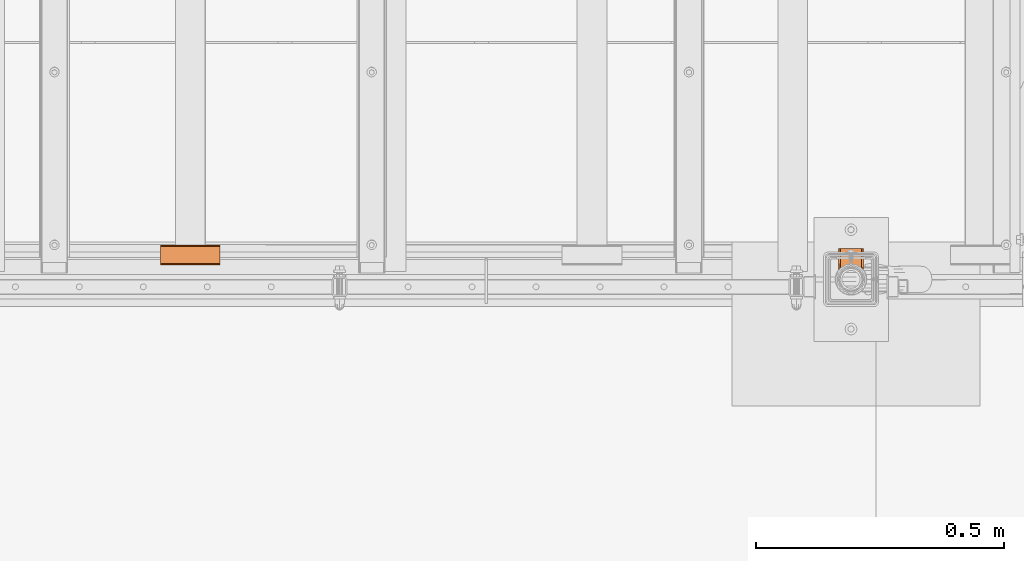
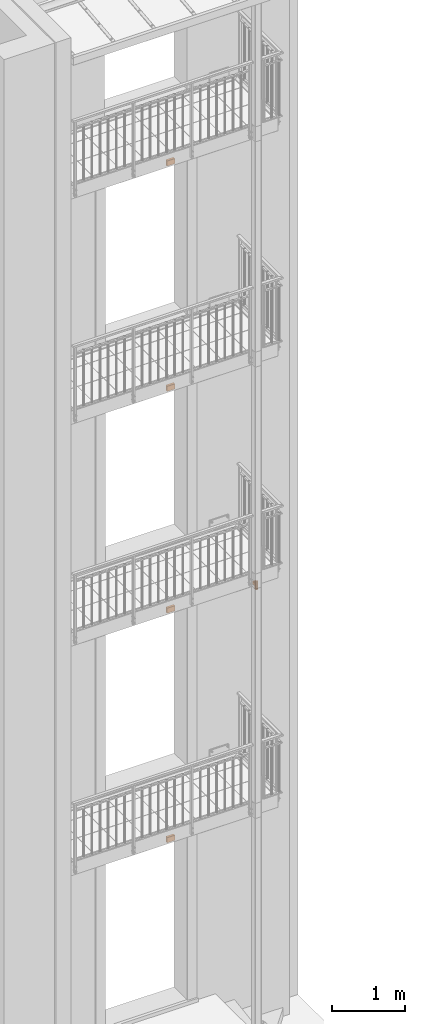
# One storey, part 82 of 162: 5 proxies.
"""IFC2X3 building model written with IfcOpenShell, lengths in millimetres."""

from ifc_helpers import new_model, entity, si_unit, converted_unit, origin_with_axes, place, context, project, spatial, faceted_brep, material, element, save


model = new_model("IFC2X3")

# Units and contexts
model_context = context("Model", 3, precision=1e-09, world=origin_with_axes())
ifc_project = project(units=[si_unit("LENGTHUNIT", "METRE", prefix="MILLI"), si_unit("AREAUNIT", "SQUARE_METRE"), si_unit("VOLUMEUNIT", "CUBIC_METRE"), converted_unit("PLANEANGLEUNIT", "DEGREE", entity("IfcPlaneAngleMeasure", 0.01745329), si_unit("PLANEANGLEUNIT", "RADIAN"), dimensions=[0, 0, 0, 0, 0, 0, 0])], contexts=[model_context])

# Site, building, storey
site_placement = place(None, origin_with_axes())
site = spatial("IfcSite", under=ifc_project, at=site_placement, Name="Hermannstra?e 1a, 60318 Frankfurt", CompositionType="ELEMENT")
building_placement = place(site_placement, origin_with_axes())
building = spatial("IfcBuilding", under=site, at=building_placement, Name="Struktur 1", CompositionType="ELEMENT")
storey_placement = place(building_placement, origin_with_axes())
storey = spatial("IfcBuildingStorey", under=building, at=storey_placement, Name="Default Storey", CompositionType="ELEMENT", Elevation=0.0)

# Proxies
ifc_material_1 = material(Name="S235JR")
proxy_1_placement = place(None, origin_with_axes())
element("IfcBuildingElementProxy", 1, at=proxy_1_placement, inside=storey, material=ifc_material_1, ObjectType="-", context=model_context, shape_type="Brep", body=[
    faceted_brep([(5452.350576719, 1542.609373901, 7592.572710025), (5452.327698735, 1542.609373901, 7592.382537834), (5452.30936482, 1592.609373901, 7592.0), (5450.201414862, 1542.609373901, 7552.833478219), (5452.350576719, 1542.609373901, 7551.048165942), (5452.350576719, 1542.609373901, 7557.427289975), (5452.327698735, 1542.609373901, 7557.617462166), (5452.313950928, 1542.609373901, 7557.808511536), (5452.30936482, 1542.609373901, 7558.0), (5452.30936482, 1542.609373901, 7592.0), (5452.313950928, 1542.609373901, 7592.191488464), (5452.350576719, 1542.609373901, 7598.951834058), (5450.201414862, 1542.609373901, 7597.166521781), (5448.797254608, 1542.609373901, 7594.751036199), (5448.30936482, 1542.609373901, 7592.0), (5448.30936482, 1542.609373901, 7558.0), (5448.797254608, 1542.609373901, 7555.248963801), (5452.563771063, 1542.974289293, 7593.403750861), (5452.845263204, 1592.609373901, 7594.0), (5452.911785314, 1543.540321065, 7594.111024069), (5449.381161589, 1592.609373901, 7596.0), (5448.30936482, 1592.609373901, 7592.0), (5452.30936482, 1592.609373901, 7598.92820323), (5456.30936482, 1592.609373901, 7600.0), (5490.30936482, 1592.609373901, 7600.0), (5494.30936482, 1592.609373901, 7598.92820323), (5497.23756805, 1592.609373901, 7596.0), (5498.30936482, 1592.609373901, 7592.0), (5498.30936482, 1592.609373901, 7558.0), (5497.23756805, 1592.609373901, 7554.0), (5494.30936482, 1592.609373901, 7551.07179677), (5490.30936482, 1592.609373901, 7550.0), (5456.30936482, 1592.609373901, 7550.0), (5452.30936482, 1592.609373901, 7551.07179677), (5449.381161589, 1592.609373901, 7554.0), (5448.30936482, 1592.609373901, 7558.0), (5454.30936482, 1592.609373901, 7595.464101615), (5452.30936482, 1592.609373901, 7558.0), (5452.845263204, 1592.609373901, 7556.0), (5454.30936482, 1592.609373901, 7554.535898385), (5456.30936482, 1592.609373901, 7554.0), (5490.30936482, 1592.609373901, 7554.0), (5492.30936482, 1592.609373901, 7554.535898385), (5493.773466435, 1592.609373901, 7556.0), (5494.30936482, 1592.609373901, 7558.0), (5494.30936482, 1592.609373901, 7592.0), (5493.773466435, 1592.609373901, 7594.0), (5492.30936482, 1592.609373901, 7595.464101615), (5490.30936482, 1592.609373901, 7596.0), (5456.30936482, 1592.609373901, 7596.0), (5453.822811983, 1544.876293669, 7595.133217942), (5456.30936482, 1547.7636969, 7596.0), (5456.30936482, 1547.7636969, 7600.0), (5464.117609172, 1552.942811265, 7596.0), (5464.117609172, 1552.942811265, 7600.0), (5452.573414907, 1542.990448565, 7556.570836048), (5490.30936482, 1547.763696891, 7596.0), (5482.50112047, 1552.942811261, 7596.0), (5473.309364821, 1554.760373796, 7596.0), (5473.309364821, 1554.760373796, 7600.0), (5452.924848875, 1543.560904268, 7555.868118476), (5482.50112047, 1552.942811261, 7600.0), (5490.30936482, 1547.763696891, 7600.0), (5453.844527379, 1544.905878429, 7554.84970281), (5456.30936482, 1547.7636969, 7550.0), (5456.30936482, 1547.7636969, 7554.0), (5464.117609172, 1552.942811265, 7550.0), (5464.117609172, 1552.942811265, 7554.0), (5490.30936482, 1547.763696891, 7550.0), (5482.50112047, 1552.942811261, 7550.0), (5473.309364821, 1554.760373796, 7550.0), (5473.309364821, 1554.760373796, 7554.0), (5493.706944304, 1543.540321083, 7594.111024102), (5494.054958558, 1542.974289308, 7593.403750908), (5494.268152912, 1542.609373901, 7598.951834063), (5494.268152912, 1542.609373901, 7592.572710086), (5492.795917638, 1544.876293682, 7595.133217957), (5482.50112047, 1552.942811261, 7554.0), (5490.30936482, 1547.763696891, 7554.0), (5496.417314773, 1542.609373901, 7552.833478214), (5497.82147503, 1542.609373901, 7555.248963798), (5498.30936482, 1542.609373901, 7558.0), (5498.30936482, 1542.609373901, 7592.0), (5497.82147503, 1542.609373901, 7594.751036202), (5496.417314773, 1542.609373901, 7597.166521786), (5494.2910309, 1542.609373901, 7592.382537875), (5494.304778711, 1542.609373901, 7592.191488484), (5494.30936482, 1542.609373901, 7592.0), (5494.30936482, 1542.609373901, 7558.0), (5494.304778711, 1542.609373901, 7557.808511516), (5494.2910309, 1542.609373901, 7557.617462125), (5494.268152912, 1542.609373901, 7557.427289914), (5494.268152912, 1542.609373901, 7551.048165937), (5492.774202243, 1544.90587844, 7554.849702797), (5493.693880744, 1543.560904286, 7555.868118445), (5494.045314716, 1542.990448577, 7556.570836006)], [[[0, 1, 2]], [[3, 4, 5, 6, 7, 8, 9, 10, 1, 0, 11, 12, 13, 14, 15, 16]], [[17, 0, 2]], [[17, 11, 0]], [[10, 2, 1]], [[17, 2, 18]], [[19, 17, 18]], [[17, 19, 11]], [[10, 9, 2]], [[20, 21, 13]], [[22, 20, 12]], [[20, 22, 23, 24, 25, 26, 27, 28, 29, 30, 31, 32, 33, 34, 35, 21], [36, 18, 2, 37, 38, 39, 40, 41, 42, 43, 44, 45, 46, 47, 48, 49]], [[50, 19, 18]], [[19, 50, 11]], [[9, 8, 37, 2]], [[20, 13, 12]], [[21, 14, 13]], [[15, 14, 21, 35]], [[22, 12, 11]], [[50, 18, 36]], [[50, 51, 52]], [[50, 52, 11]], [[51, 53, 54, 52]], [[7, 6, 37]], [[7, 37, 8]], [[5, 37, 6]], [[16, 15, 35]], [[5, 4, 55]], [[23, 22, 11]], [[51, 50, 36]], [[49, 48, 56, 57, 58, 53, 51]], [[23, 11, 52]], [[53, 58, 59, 54]], [[5, 55, 37]], [[16, 35, 34]], [[60, 55, 4]], [[51, 36, 49]], [[59, 61, 62, 24, 23, 52, 54]], [[3, 16, 34]], [[55, 38, 37]], [[55, 60, 38]], [[63, 60, 4]], [[58, 57, 61, 59]], [[4, 3, 33]], [[3, 34, 33]], [[60, 63, 38]], [[63, 4, 64]], [[57, 56, 62, 61]], [[64, 4, 33]], [[63, 39, 38]], [[65, 63, 64]], [[64, 66, 67, 65]], [[56, 48, 47]], [[32, 31, 68, 69, 70, 66, 64]], [[64, 33, 32]], [[63, 65, 39]], [[66, 70, 71, 67]], [[72, 73, 74]], [[75, 74, 73]], [[72, 76, 46]], [[76, 56, 47]], [[56, 76, 62]], [[76, 72, 74]], [[65, 40, 39]], [[71, 77, 78, 41, 40, 65, 67]], [[73, 72, 46]], [[75, 73, 45]], [[79, 80, 81, 82, 83, 84, 74, 75, 85, 86, 87, 88, 89, 90, 91, 92]], [[76, 47, 46]], [[62, 25, 24]], [[76, 74, 62]], [[77, 71, 70, 69]], [[78, 77, 69, 68]], [[73, 46, 45]], [[75, 45, 85]], [[62, 74, 25]], [[93, 78, 68]], [[94, 93, 92]], [[95, 94, 92]], [[91, 90, 44]], [[95, 92, 91]], [[86, 85, 45]], [[74, 84, 25]], [[89, 88, 44]], [[89, 44, 90]], [[93, 68, 92]], [[78, 42, 41]], [[78, 93, 42]], [[93, 94, 43]], [[94, 95, 43]], [[95, 91, 44]], [[86, 45, 87]], [[88, 87, 45, 44]], [[83, 27, 26]], [[84, 26, 25]], [[31, 92, 68]], [[93, 43, 42]], [[82, 81, 28, 27]], [[95, 44, 43]], [[83, 82, 27]], [[84, 83, 26]], [[31, 30, 92]], [[30, 79, 92]], [[28, 81, 80]], [[30, 29, 79]], [[29, 28, 80]], [[29, 80, 79]]]),
    faceted_brep([(5452.458054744, 1538.082250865, 7593.084774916), (5452.349523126, 1537.772303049, 7592.573274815), (5452.436342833, 1542.755917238, 7593.004005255), (5452.350714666, 1537.775786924, 7557.418484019), (5452.458814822, 1538.084468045, 7556.912278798), (5452.425069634, 1542.736564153, 7557.039862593), (5452.30836482, 1542.533320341, 7557.999), (5452.30836482, 1542.533320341, 7592.001), (5450.997674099, 1539.851178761, 7498.0), (5450.997674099, 1539.851178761, 7624.0), (5452.749261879, 1543.278325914, 7593.826042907), (5452.775277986, 1538.914394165, 7593.876444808), (5453.074332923, 1539.618590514, 7624.0), (5452.733221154, 1543.252318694, 7556.205072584), (5452.784214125, 1538.93644692, 7556.106836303), (5453.074332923, 1539.618590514, 7498.0), (5452.30836482, 1537.650716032, 7557.999), (5452.30836482, 1537.650716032, 7592.001), (5453.690911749, 1544.692624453, 7595.025687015), (5453.674163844, 1540.860237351, 7595.011116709), (5453.674712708, 1540.861329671, 7554.988368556), (5453.659785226, 1544.649160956, 7555.001497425), (5449.15936481, 1530.60937387, 7498.0), (5449.15936481, 1530.60937387, 7624.0), (5451.15936481, 1530.60937387, 7624.0), (5456.30836482, 1544.807560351, 7596.001), (5456.232736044, 1513.532745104, 7498.0), (5450.997674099, 1521.367568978, 7498.0), (5456.232736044, 1547.686002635, 7498.0), (5464.067559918, 1552.92106458, 7498.0), (5473.30936481, 1554.75937387, 7498.0), (5482.551169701, 1552.92106458, 7498.0), (5490.385993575, 1547.686002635, 7498.0), (5495.62105552, 1539.851178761, 7498.0), (5497.45936481, 1530.60937387, 7498.0), (5495.62105552, 1521.367568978, 7498.0), (5490.385993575, 1513.532745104, 7498.0), (5482.551169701, 1508.29768316, 7498.0), (5473.30936481, 1506.45937387, 7498.0), (5464.067559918, 1508.29768316, 7498.0), (5451.15936481, 1530.60937387, 7498.0), (5453.074332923, 1521.600157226, 7498.0), (5458.488121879, 1514.148715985, 7498.0), (5466.464638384, 1509.543472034, 7498.0), (5475.624670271, 1508.580713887, 7498.0), (5484.38436481, 1511.426911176, 7498.0), (5491.229091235, 1517.589930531, 7498.0), (5494.975334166, 1526.004129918, 7498.0), (5494.975334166, 1535.214617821, 7498.0), (5491.229091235, 1543.628817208, 7498.0), (5484.38436481, 1549.791836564, 7498.0), (5475.624670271, 1552.638033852, 7498.0), (5466.464638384, 1551.675275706, 7498.0), (5458.488121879, 1547.070031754, 7498.0), (5456.30836482, 1544.807560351, 7553.999), (5456.232736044, 1547.686002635, 7624.0), (5450.997674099, 1521.367568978, 7624.0), (5456.232736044, 1513.532745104, 7624.0), (5464.067559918, 1508.29768316, 7624.0), (5473.30936481, 1506.45937387, 7624.0), (5482.551169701, 1508.29768316, 7624.0), (5490.385993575, 1513.532745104, 7624.0), (5495.62105552, 1521.367568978, 7624.0), (5497.45936481, 1530.60937387, 7624.0), (5495.62105552, 1539.851178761, 7624.0), (5490.385993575, 1547.686002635, 7624.0), (5482.551169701, 1552.92106458, 7624.0), (5473.30936481, 1554.75937387, 7624.0), (5464.067559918, 1552.92106458, 7624.0), (5458.488121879, 1547.070031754, 7624.0), (5466.464638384, 1551.675275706, 7624.0), (5475.624670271, 1552.638033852, 7624.0), (5484.38436481, 1549.791836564, 7624.0), (5491.229091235, 1543.628817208, 7624.0), (5494.975334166, 1535.214617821, 7624.0), (5494.975334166, 1526.004129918, 7624.0), (5491.229091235, 1517.589930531, 7624.0), (5484.38436481, 1511.426911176, 7624.0), (5475.624670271, 1508.580713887, 7624.0), (5466.464638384, 1509.543472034, 7624.0), (5458.488121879, 1514.148715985, 7624.0), (5453.074332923, 1521.600157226, 7624.0), (5456.30836482, 1547.761297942, 7596.001), (5456.30836482, 1547.761297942, 7553.999), (5482.501849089, 1552.94143004, 7596.001), (5490.31036482, 1547.76129792, 7596.001), (5490.31036482, 1544.807560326, 7596.001), (5484.411161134, 1549.776340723, 7596.001), (5477.16583286, 1552.421071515, 7596.001), (5469.452896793, 1552.421071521, 7596.001), (5462.207568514, 1549.77634074, 7596.001), (5464.116880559, 1552.941430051, 7596.001), (5473.309364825, 1554.75937387, 7596.001), (5477.16583286, 1552.421071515, 7553.999), (5484.411161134, 1549.776340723, 7553.999), (5490.31036482, 1544.807560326, 7553.999), (5490.31036482, 1547.76129792, 7553.999), (5482.501849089, 1552.94143004, 7553.999), (5473.309364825, 1554.75937387, 7553.999), (5464.116880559, 1552.941430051, 7553.999), (5462.207568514, 1549.77634074, 7553.999), (5469.452896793, 1552.421071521, 7553.999), (5492.958944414, 1544.649160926, 7594.998502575), (5492.944565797, 1540.860237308, 7595.011116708), (5493.885508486, 1543.25231866, 7593.794927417), (5494.193660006, 1542.736564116, 7592.960137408), (5492.944565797, 1540.860237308, 7554.988883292), (5492.958944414, 1544.649160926, 7555.001497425), (5494.160674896, 1538.082250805, 7593.084774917), (5493.843451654, 1538.914394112, 7556.123555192), (5493.885508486, 1543.25231866, 7556.205072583), (5493.843451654, 1538.914394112, 7593.876444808), (5494.193660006, 1542.736564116, 7557.039862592), (5494.31036482, 1542.533320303, 7592.001), (5494.269206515, 1537.772302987, 7592.573274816), (5494.160674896, 1538.082250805, 7556.915225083), (5494.31036482, 1542.533320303, 7557.999), (5494.31036482, 1537.650715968, 7592.001), (5494.31036482, 1537.650715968, 7557.999), (5494.269206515, 1537.772302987, 7557.426725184)], [[[0, 1, 2]], [[3, 4, 5]], [[3, 5, 6]], [[1, 7, 2]], [[7, 6, 8, 9]], [[7, 9, 2]], [[0, 2, 10]], [[11, 0, 10]], [[12, 1, 0]], [[6, 5, 8]], [[4, 13, 5]], [[4, 14, 13]], [[4, 3, 15]], [[3, 6, 16]], [[1, 17, 7]], [[6, 7, 17, 16]], [[10, 2, 9]], [[11, 10, 18]], [[12, 17, 1]], [[19, 11, 18]], [[12, 0, 11]], [[5, 13, 8]], [[4, 15, 14]], [[14, 20, 13]], [[20, 21, 13]], [[3, 16, 15]], [[9, 8, 22, 23]], [[18, 10, 9]], [[12, 24, 17]], [[25, 19, 18]], [[12, 11, 19]], [[21, 8, 13]], [[26, 27, 22, 8, 28, 29, 30, 31, 32, 33, 34, 35, 36, 37, 38, 39], [40, 41, 42, 43, 44, 45, 46, 47, 48, 49, 50, 51, 52, 53, 15]], [[20, 14, 15]], [[20, 54, 21]], [[40, 15, 16]], [[17, 24, 40, 16]], [[55, 9, 23, 56, 57, 58, 59, 60, 61, 62, 63, 64, 65, 66, 67, 68], [24, 12, 69, 70, 71, 72, 73, 74, 75, 76, 77, 78, 79, 80, 81]], [[23, 22, 27, 56]], [[18, 9, 55]], [[25, 18, 82]], [[12, 19, 25]], [[21, 28, 8]], [[54, 20, 15]], [[54, 83, 21]], [[82, 18, 55]], [[84, 85, 86, 87, 88, 89, 90, 25, 82, 91, 92]], [[69, 12, 25]], [[21, 83, 28]], [[54, 15, 53]], [[93, 94, 95, 96, 97, 98, 99, 83, 54, 100, 101]], [[40, 24, 81, 41]], [[56, 27, 26, 57]], [[82, 55, 68]], [[69, 25, 90]], [[83, 29, 28]], [[100, 54, 53]], [[91, 82, 68]], [[70, 69, 90]], [[83, 99, 29]], [[100, 53, 52]], [[41, 81, 80, 42]], [[57, 26, 39, 58]], [[92, 91, 67]], [[91, 68, 67]], [[70, 90, 89]], [[99, 98, 30]], [[99, 30, 29]], [[101, 100, 52]], [[84, 92, 67]], [[71, 70, 89]], [[98, 97, 30]], [[101, 52, 51]], [[42, 80, 79, 43]], [[58, 39, 38, 59]], [[84, 67, 66]], [[71, 89, 88]], [[97, 31, 30]], [[93, 101, 51]], [[85, 84, 66]], [[72, 71, 88]], [[72, 88, 87]], [[97, 96, 31]], [[93, 51, 50]], [[94, 93, 50]], [[43, 79, 78, 44]], [[59, 38, 37, 60]], [[86, 85, 102]], [[85, 66, 65]], [[72, 87, 86]], [[103, 86, 102]], [[103, 102, 104]], [[105, 104, 64]], [[96, 32, 31]], [[95, 94, 50]], [[106, 96, 95]], [[106, 107, 96]], [[108, 104, 105]], [[109, 110, 107]], [[102, 64, 104]], [[102, 85, 65]], [[73, 72, 86]], [[73, 86, 103]], [[111, 103, 104]], [[108, 111, 104]], [[110, 112, 33]], [[113, 105, 64]], [[96, 107, 32]], [[107, 110, 33]], [[95, 50, 49]], [[106, 95, 49]], [[106, 109, 107]], [[44, 78, 77, 45]], [[60, 37, 36, 61]], [[114, 108, 105]], [[114, 105, 113]], [[109, 115, 110]], [[115, 112, 110]], [[102, 65, 64]], [[111, 73, 103]], [[111, 108, 74]], [[116, 33, 112]], [[113, 64, 33, 116]], [[107, 33, 32]], [[109, 106, 49]], [[108, 114, 74]], [[114, 113, 117]], [[113, 116, 118, 117]], [[109, 48, 115]], [[115, 119, 112]], [[119, 116, 112]], [[35, 62, 61, 36]], [[111, 74, 73]], [[109, 49, 48]], [[45, 77, 76, 46]], [[117, 74, 114]], [[119, 115, 48]], [[119, 118, 116]], [[62, 35, 34, 63]], [[63, 34, 33, 64]], [[117, 118, 48, 74]], [[118, 119, 48]], [[46, 76, 75, 47]], [[74, 48, 47, 75]]]),
])
ifc_material_2 = material(Name="Alu")
proxy_2_placement = place(None, origin_with_axes())
element("IfcBuildingElementProxy", 2, at=proxy_2_placement, inside=storey, material=ifc_material_2, ObjectType="-", context=model_context, shape_type="Brep", body=[
    faceted_brep([(4202.55936482, 1596.609373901, 7555.803847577), (4202.55936482, 1598.805526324, 7558.0), (4202.55936482, 1599.609373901, 7561.0), (4202.55936482, 1599.609373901, 7639.0), (4202.55936482, 1598.805526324, 7642.0), (4202.55936482, 1596.609373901, 7644.196152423), (4202.55936482, 1593.609373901, 7645.0), (4202.55936482, 1565.609373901, 7645.0), (4202.55936482, 1562.609373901, 7644.196152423), (4202.55936482, 1560.413221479, 7642.0), (4202.55936482, 1559.609373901, 7639.0), (4202.55936482, 1559.609373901, 7561.0), (4202.55936482, 1560.413221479, 7558.0), (4202.55936482, 1562.609373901, 7555.803847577), (4202.55936482, 1565.609373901, 7555.0), (4202.55936482, 1593.609373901, 7555.0), (4202.55936482, 1596.609373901, 7561.0), (4202.55936482, 1596.207450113, 7559.5), (4202.55936482, 1595.109373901, 7558.401923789), (4202.55936482, 1593.609373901, 7558.0), (4202.55936482, 1565.609373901, 7558.0), (4202.55936482, 1564.109373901, 7558.401923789), (4202.55936482, 1563.01129769, 7559.5), (4202.55936482, 1562.609373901, 7561.0), (4202.55936482, 1562.609373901, 7639.0), (4202.55936482, 1563.01129769, 7640.5), (4202.55936482, 1564.109373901, 7641.598076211), (4202.55936482, 1565.609373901, 7642.0), (4202.55936482, 1593.609373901, 7642.0), (4202.55936482, 1595.109373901, 7641.598076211), (4202.55936482, 1596.207450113, 7640.5), (4202.55936482, 1596.609373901, 7639.0), (4082.55936482, 1596.609373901, 7561.0), (4082.55936482, 1596.207450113, 7559.5), (4082.55936482, 1599.609373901, 7561.0), (4082.55936482, 1598.805526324, 7558.0), (4082.55936482, 1598.805526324, 7642.0), (4082.55936482, 1599.609373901, 7639.0), (4082.55936482, 1596.609373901, 7555.803847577), (4082.55936482, 1593.609373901, 7555.0), (4082.55936482, 1565.609373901, 7555.0), (4082.55936482, 1562.609373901, 7555.803847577), (4082.55936482, 1560.413221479, 7558.0), (4082.55936482, 1559.609373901, 7561.0), (4082.55936482, 1559.609373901, 7639.0), (4082.55936482, 1560.413221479, 7642.0), (4082.55936482, 1562.609373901, 7644.196152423), (4082.55936482, 1565.609373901, 7645.0), (4082.55936482, 1593.609373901, 7645.0), (4082.55936482, 1596.609373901, 7644.196152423), (4082.55936482, 1596.609373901, 7639.0), (4082.55936482, 1596.207450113, 7640.5), (4082.55936482, 1595.109373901, 7641.598076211), (4082.55936482, 1593.609373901, 7642.0), (4082.55936482, 1565.609373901, 7642.0), (4082.55936482, 1564.109373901, 7641.598076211), (4082.55936482, 1563.01129769, 7640.5), (4082.55936482, 1562.609373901, 7639.0), (4082.55936482, 1562.609373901, 7561.0), (4082.55936482, 1563.01129769, 7559.5), (4082.55936482, 1564.109373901, 7558.401923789), (4082.55936482, 1565.609373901, 7558.0), (4082.55936482, 1593.609373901, 7558.0), (4082.55936482, 1595.109373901, 7558.401923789)], [[[0, 1, 2, 3, 4, 5, 6, 7, 8, 9, 10, 11, 12, 13, 14, 15], [16, 17, 18, 19, 20, 21, 22, 23, 24, 25, 26, 27, 28, 29, 30, 31]], [[16, 32, 33, 17]], [[34, 2, 1, 35]], [[36, 37, 34, 35, 38, 39, 40, 41, 42, 43, 44, 45, 46, 47, 48, 49], [50, 51, 52, 53, 54, 55, 56, 57, 58, 59, 60, 61, 62, 63, 33, 32]], [[16, 31, 50, 32]], [[34, 37, 3, 2]], [[3, 37, 36, 4]], [[17, 33, 63, 18]], [[35, 1, 0, 38]], [[50, 31, 30, 51]], [[4, 36, 49, 5]], [[18, 63, 62, 19]], [[38, 0, 15, 39]], [[51, 30, 29, 52]], [[5, 49, 48, 6]], [[62, 61, 20, 19]], [[15, 14, 40, 39]], [[52, 29, 28, 53]], [[48, 47, 7, 6]], [[28, 27, 54, 53]], [[20, 61, 60, 21]], [[40, 14, 13, 41]], [[7, 47, 46, 8]], [[54, 27, 26, 55]], [[21, 60, 59, 22]], [[41, 13, 12, 42]], [[11, 43, 42, 12]], [[8, 46, 45, 9]], [[55, 26, 25, 56]], [[22, 59, 58, 23]], [[11, 10, 44, 43]], [[24, 57, 56, 25]], [[24, 23, 58, 57]], [[9, 45, 44, 10]]]),
])
proxy_3_placement = place(None, origin_with_axes())
element("IfcBuildingElementProxy", 3, at=proxy_3_placement, inside=storey, material=ifc_material_2, ObjectType="-", context=model_context, shape_type="Brep", body=[
    faceted_brep([(4202.55936482, 1596.609373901, 11255.802847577), (4202.55936482, 1598.805526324, 11257.999), (4202.55936482, 1599.609373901, 11260.999), (4202.55936482, 1599.609373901, 11338.999), (4202.55936482, 1598.805526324, 11341.999), (4202.55936482, 1596.609373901, 11344.195152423), (4202.55936482, 1593.609373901, 11344.999), (4202.55936482, 1565.609373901, 11344.999), (4202.55936482, 1562.609373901, 11344.195152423), (4202.55936482, 1560.413221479, 11341.999), (4202.55936482, 1559.609373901, 11338.999), (4202.55936482, 1559.609373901, 11260.999), (4202.55936482, 1560.413221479, 11257.999), (4202.55936482, 1562.609373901, 11255.802847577), (4202.55936482, 1565.609373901, 11254.999), (4202.55936482, 1593.609373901, 11254.999), (4202.55936482, 1596.609373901, 11260.999), (4202.55936482, 1596.207450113, 11259.499), (4202.55936482, 1595.109373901, 11258.400923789), (4202.55936482, 1593.609373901, 11257.999), (4202.55936482, 1565.609373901, 11257.999), (4202.55936482, 1564.109373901, 11258.400923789), (4202.55936482, 1563.01129769, 11259.499), (4202.55936482, 1562.609373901, 11260.999), (4202.55936482, 1562.609373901, 11338.999), (4202.55936482, 1563.01129769, 11340.499), (4202.55936482, 1564.109373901, 11341.597076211), (4202.55936482, 1565.609373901, 11341.999), (4202.55936482, 1593.609373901, 11341.999), (4202.55936482, 1595.109373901, 11341.597076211), (4202.55936482, 1596.207450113, 11340.499), (4202.55936482, 1596.609373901, 11338.999), (4082.55936482, 1596.609373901, 11260.999), (4082.55936482, 1596.207450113, 11259.499), (4082.55936482, 1599.609373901, 11260.999), (4082.55936482, 1598.805526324, 11257.999), (4082.55936482, 1598.805526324, 11341.999), (4082.55936482, 1599.609373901, 11338.999), (4082.55936482, 1596.609373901, 11255.802847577), (4082.55936482, 1593.609373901, 11254.999), (4082.55936482, 1565.609373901, 11254.999), (4082.55936482, 1562.609373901, 11255.802847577), (4082.55936482, 1560.413221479, 11257.999), (4082.55936482, 1559.609373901, 11260.999), (4082.55936482, 1559.609373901, 11338.999), (4082.55936482, 1560.413221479, 11341.999), (4082.55936482, 1562.609373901, 11344.195152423), (4082.55936482, 1565.609373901, 11344.999), (4082.55936482, 1593.609373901, 11344.999), (4082.55936482, 1596.609373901, 11344.195152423), (4082.55936482, 1596.609373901, 11338.999), (4082.55936482, 1596.207450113, 11340.499), (4082.55936482, 1595.109373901, 11341.597076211), (4082.55936482, 1593.609373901, 11341.999), (4082.55936482, 1565.609373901, 11341.999), (4082.55936482, 1564.109373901, 11341.597076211), (4082.55936482, 1563.01129769, 11340.499), (4082.55936482, 1562.609373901, 11338.999), (4082.55936482, 1562.609373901, 11260.999), (4082.55936482, 1563.01129769, 11259.499), (4082.55936482, 1564.109373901, 11258.400923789), (4082.55936482, 1565.609373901, 11257.999), (4082.55936482, 1593.609373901, 11257.999), (4082.55936482, 1595.109373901, 11258.400923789)], [[[0, 1, 2, 3, 4, 5, 6, 7, 8, 9, 10, 11, 12, 13, 14, 15], [16, 17, 18, 19, 20, 21, 22, 23, 24, 25, 26, 27, 28, 29, 30, 31]], [[16, 32, 33, 17]], [[34, 2, 1, 35]], [[36, 37, 34, 35, 38, 39, 40, 41, 42, 43, 44, 45, 46, 47, 48, 49], [50, 51, 52, 53, 54, 55, 56, 57, 58, 59, 60, 61, 62, 63, 33, 32]], [[16, 31, 50, 32]], [[34, 37, 3, 2]], [[3, 37, 36, 4]], [[17, 33, 63, 18]], [[35, 1, 0, 38]], [[50, 31, 30, 51]], [[4, 36, 49, 5]], [[18, 63, 62, 19]], [[38, 0, 15, 39]], [[51, 30, 29, 52]], [[5, 49, 48, 6]], [[62, 61, 20, 19]], [[15, 14, 40, 39]], [[52, 29, 28, 53]], [[48, 47, 7, 6]], [[28, 27, 54, 53]], [[20, 61, 60, 21]], [[40, 14, 13, 41]], [[7, 47, 46, 8]], [[54, 27, 26, 55]], [[21, 60, 59, 22]], [[41, 13, 12, 42]], [[11, 43, 42, 12]], [[8, 46, 45, 9]], [[55, 26, 25, 56]], [[22, 59, 58, 23]], [[11, 10, 44, 43]], [[24, 57, 56, 25]], [[24, 23, 58, 57]], [[9, 45, 44, 10]]]),
])
proxy_4_placement = place(None, origin_with_axes())
element("IfcBuildingElementProxy", 4, at=proxy_4_placement, inside=storey, material=ifc_material_2, ObjectType="-", context=model_context, shape_type="Brep", body=[
    faceted_brep([(4202.55936482, 1596.609373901, 15012.802847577), (4202.55936482, 1598.805526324, 15014.999), (4202.55936482, 1599.609373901, 15017.999), (4202.55936482, 1599.609373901, 15095.999), (4202.55936482, 1598.805526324, 15098.999), (4202.55936482, 1596.609373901, 15101.195152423), (4202.55936482, 1593.609373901, 15101.999), (4202.55936482, 1565.609373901, 15101.999), (4202.55936482, 1562.609373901, 15101.195152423), (4202.55936482, 1560.413221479, 15098.999), (4202.55936482, 1559.609373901, 15095.999), (4202.55936482, 1559.609373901, 15017.999), (4202.55936482, 1560.413221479, 15014.999), (4202.55936482, 1562.609373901, 15012.802847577), (4202.55936482, 1565.609373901, 15011.999), (4202.55936482, 1593.609373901, 15011.999), (4202.55936482, 1596.609373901, 15017.999), (4202.55936482, 1596.207450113, 15016.499), (4202.55936482, 1595.109373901, 15015.400923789), (4202.55936482, 1593.609373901, 15014.999), (4202.55936482, 1565.609373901, 15014.999), (4202.55936482, 1564.109373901, 15015.400923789), (4202.55936482, 1563.01129769, 15016.499), (4202.55936482, 1562.609373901, 15017.999), (4202.55936482, 1562.609373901, 15095.999), (4202.55936482, 1563.01129769, 15097.499), (4202.55936482, 1564.109373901, 15098.597076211), (4202.55936482, 1565.609373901, 15098.999), (4202.55936482, 1593.609373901, 15098.999), (4202.55936482, 1595.109373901, 15098.597076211), (4202.55936482, 1596.207450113, 15097.499), (4202.55936482, 1596.609373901, 15095.999), (4082.55936482, 1596.609373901, 15017.999), (4082.55936482, 1596.207450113, 15016.499), (4082.55936482, 1599.609373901, 15017.999), (4082.55936482, 1598.805526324, 15014.999), (4082.55936482, 1598.805526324, 15098.999), (4082.55936482, 1599.609373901, 15095.999), (4082.55936482, 1596.609373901, 15012.802847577), (4082.55936482, 1593.609373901, 15011.999), (4082.55936482, 1565.609373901, 15011.999), (4082.55936482, 1562.609373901, 15012.802847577), (4082.55936482, 1560.413221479, 15014.999), (4082.55936482, 1559.609373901, 15017.999), (4082.55936482, 1559.609373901, 15095.999), (4082.55936482, 1560.413221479, 15098.999), (4082.55936482, 1562.609373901, 15101.195152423), (4082.55936482, 1565.609373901, 15101.999), (4082.55936482, 1593.609373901, 15101.999), (4082.55936482, 1596.609373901, 15101.195152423), (4082.55936482, 1596.609373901, 15095.999), (4082.55936482, 1596.207450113, 15097.499), (4082.55936482, 1595.109373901, 15098.597076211), (4082.55936482, 1593.609373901, 15098.999), (4082.55936482, 1565.609373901, 15098.999), (4082.55936482, 1564.109373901, 15098.597076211), (4082.55936482, 1563.01129769, 15097.499), (4082.55936482, 1562.609373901, 15095.999), (4082.55936482, 1562.609373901, 15017.999), (4082.55936482, 1563.01129769, 15016.499), (4082.55936482, 1564.109373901, 15015.400923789), (4082.55936482, 1565.609373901, 15014.999), (4082.55936482, 1593.609373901, 15014.999), (4082.55936482, 1595.109373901, 15015.400923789)], [[[0, 1, 2, 3, 4, 5, 6, 7, 8, 9, 10, 11, 12, 13, 14, 15], [16, 17, 18, 19, 20, 21, 22, 23, 24, 25, 26, 27, 28, 29, 30, 31]], [[16, 32, 33, 17]], [[34, 2, 1, 35]], [[36, 37, 34, 35, 38, 39, 40, 41, 42, 43, 44, 45, 46, 47, 48, 49], [50, 51, 52, 53, 54, 55, 56, 57, 58, 59, 60, 61, 62, 63, 33, 32]], [[16, 31, 50, 32]], [[34, 37, 3, 2]], [[3, 37, 36, 4]], [[17, 33, 63, 18]], [[35, 1, 0, 38]], [[50, 31, 30, 51]], [[4, 36, 49, 5]], [[18, 63, 62, 19]], [[38, 0, 15, 39]], [[51, 30, 29, 52]], [[5, 49, 48, 6]], [[62, 61, 20, 19]], [[15, 14, 40, 39]], [[52, 29, 28, 53]], [[48, 47, 7, 6]], [[28, 27, 54, 53]], [[20, 61, 60, 21]], [[40, 14, 13, 41]], [[7, 47, 46, 8]], [[54, 27, 26, 55]], [[21, 60, 59, 22]], [[41, 13, 12, 42]], [[11, 43, 42, 12]], [[8, 46, 45, 9]], [[55, 26, 25, 56]], [[22, 59, 58, 23]], [[11, 10, 44, 43]], [[24, 57, 56, 25]], [[24, 23, 58, 57]], [[9, 45, 44, 10]]]),
])
proxy_5_placement = place(None, origin_with_axes())
element("IfcBuildingElementProxy", 5, at=proxy_5_placement, inside=storey, material=ifc_material_2, ObjectType="-", context=model_context, shape_type="Brep", body=[
    faceted_brep([(4202.55936482, 1596.609373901, 3730.803847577), (4202.55936482, 1598.805526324, 3733.0), (4202.55936482, 1599.609373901, 3736.0), (4202.55936482, 1599.609373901, 3814.0), (4202.55936482, 1598.805526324, 3817.0), (4202.55936482, 1596.609373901, 3819.196152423), (4202.55936482, 1593.609373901, 3820.0), (4202.55936482, 1565.609373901, 3820.0), (4202.55936482, 1562.609373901, 3819.196152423), (4202.55936482, 1560.413221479, 3817.0), (4202.55936482, 1559.609373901, 3814.0), (4202.55936482, 1559.609373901, 3736.0), (4202.55936482, 1560.413221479, 3733.0), (4202.55936482, 1562.609373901, 3730.803847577), (4202.55936482, 1565.609373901, 3730.0), (4202.55936482, 1593.609373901, 3730.0), (4202.55936482, 1596.609373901, 3736.0), (4202.55936482, 1596.207450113, 3734.5), (4202.55936482, 1595.109373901, 3733.401923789), (4202.55936482, 1593.609373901, 3733.0), (4202.55936482, 1565.609373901, 3733.0), (4202.55936482, 1564.109373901, 3733.401923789), (4202.55936482, 1563.01129769, 3734.5), (4202.55936482, 1562.609373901, 3736.0), (4202.55936482, 1562.609373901, 3814.0), (4202.55936482, 1563.01129769, 3815.5), (4202.55936482, 1564.109373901, 3816.598076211), (4202.55936482, 1565.609373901, 3817.0), (4202.55936482, 1593.609373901, 3817.0), (4202.55936482, 1595.109373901, 3816.598076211), (4202.55936482, 1596.207450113, 3815.5), (4202.55936482, 1596.609373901, 3814.0), (4082.55936482, 1596.609373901, 3736.0), (4082.55936482, 1596.207450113, 3734.5), (4082.55936482, 1599.609373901, 3736.0), (4082.55936482, 1598.805526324, 3733.0), (4082.55936482, 1598.805526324, 3817.0), (4082.55936482, 1599.609373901, 3814.0), (4082.55936482, 1596.609373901, 3730.803847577), (4082.55936482, 1593.609373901, 3730.0), (4082.55936482, 1565.609373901, 3730.0), (4082.55936482, 1562.609373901, 3730.803847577), (4082.55936482, 1560.413221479, 3733.0), (4082.55936482, 1559.609373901, 3736.0), (4082.55936482, 1559.609373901, 3814.0), (4082.55936482, 1560.413221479, 3817.0), (4082.55936482, 1562.609373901, 3819.196152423), (4082.55936482, 1565.609373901, 3820.0), (4082.55936482, 1593.609373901, 3820.0), (4082.55936482, 1596.609373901, 3819.196152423), (4082.55936482, 1596.609373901, 3814.0), (4082.55936482, 1596.207450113, 3815.5), (4082.55936482, 1595.109373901, 3816.598076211), (4082.55936482, 1593.609373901, 3817.0), (4082.55936482, 1565.609373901, 3817.0), (4082.55936482, 1564.109373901, 3816.598076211), (4082.55936482, 1563.01129769, 3815.5), (4082.55936482, 1562.609373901, 3814.0), (4082.55936482, 1562.609373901, 3736.0), (4082.55936482, 1563.01129769, 3734.5), (4082.55936482, 1564.109373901, 3733.401923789), (4082.55936482, 1565.609373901, 3733.0), (4082.55936482, 1593.609373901, 3733.0), (4082.55936482, 1595.109373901, 3733.401923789)], [[[0, 1, 2, 3, 4, 5, 6, 7, 8, 9, 10, 11, 12, 13, 14, 15], [16, 17, 18, 19, 20, 21, 22, 23, 24, 25, 26, 27, 28, 29, 30, 31]], [[16, 32, 33, 17]], [[34, 2, 1, 35]], [[36, 37, 34, 35, 38, 39, 40, 41, 42, 43, 44, 45, 46, 47, 48, 49], [50, 51, 52, 53, 54, 55, 56, 57, 58, 59, 60, 61, 62, 63, 33, 32]], [[16, 31, 50, 32]], [[34, 37, 3, 2]], [[3, 37, 36, 4]], [[17, 33, 63, 18]], [[35, 1, 0, 38]], [[50, 31, 30, 51]], [[4, 36, 49, 5]], [[18, 63, 62, 19]], [[38, 0, 15, 39]], [[51, 30, 29, 52]], [[5, 49, 48, 6]], [[62, 61, 20, 19]], [[15, 14, 40, 39]], [[52, 29, 28, 53]], [[48, 47, 7, 6]], [[28, 27, 54, 53]], [[20, 61, 60, 21]], [[40, 14, 13, 41]], [[7, 47, 46, 8]], [[54, 27, 26, 55]], [[21, 60, 59, 22]], [[41, 13, 12, 42]], [[11, 43, 42, 12]], [[8, 46, 45, 9]], [[55, 26, 25, 56]], [[22, 59, 58, 23]], [[11, 10, 44, 43]], [[24, 57, 56, 25]], [[24, 23, 58, 57]], [[9, 45, 44, 10]]]),
])

save(model, "model.ifc")
